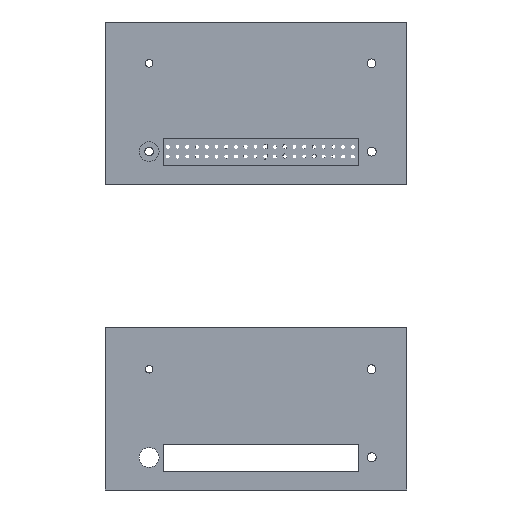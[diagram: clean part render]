
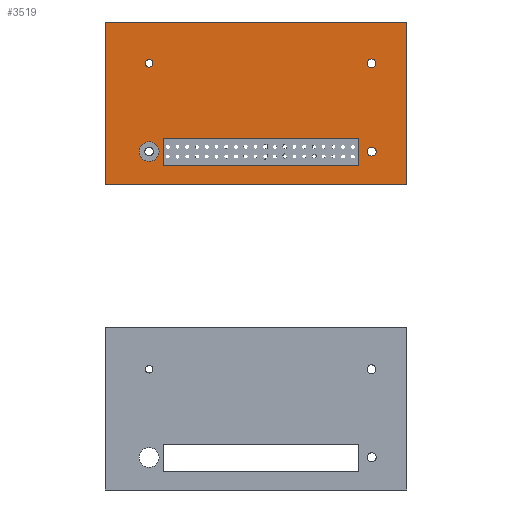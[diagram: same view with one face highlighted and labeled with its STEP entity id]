
A CAD part, front view. The second image highlights one B-rep face of the part: STEP entity #3519.
In plain terms, the highlighted planar face has unit normal (0, -1, 0).
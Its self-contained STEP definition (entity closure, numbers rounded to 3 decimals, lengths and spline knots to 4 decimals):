
#1806=LINE('',#6390,#1950);
#1809=LINE('',#6396,#1953);
#1818=LINE('',#6412,#1962);
#1821=LINE('',#6417,#1965);
#1824=LINE('',#6428,#1968);
#1825=LINE('',#6431,#1969);
#1826=LINE('',#6433,#1970);
#1827=LINE('',#6435,#1971);
#1950=VECTOR('',#5127,100.);
#1953=VECTOR('',#5132,100.);
#1962=VECTOR('',#5143,100.);
#1965=VECTOR('',#5148,100.);
#1968=VECTOR('',#5159,100.);
#1969=VECTOR('',#5160,100.);
#1970=VECTOR('',#5161,100.);
#1971=VECTOR('',#5162,100.);
#2513=PLANE('',#4517);
#2647=ORIENTED_EDGE('',*,*,#2959,.F.);
#2648=ORIENTED_EDGE('',*,*,#2962,.T.);
#2649=ORIENTED_EDGE('',*,*,#2971,.T.);
#2650=ORIENTED_EDGE('',*,*,#2974,.F.);
#2651=ORIENTED_EDGE('',*,*,#2977,.F.);
#2652=ORIENTED_EDGE('',*,*,#2978,.F.);
#2653=ORIENTED_EDGE('',*,*,#2979,.F.);
#2654=ORIENTED_EDGE('',*,*,#2980,.F.);
#2655=ORIENTED_EDGE('',*,*,#2981,.F.);
#2656=ORIENTED_EDGE('',*,*,#2982,.T.);
#2657=ORIENTED_EDGE('',*,*,#2983,.T.);
#2658=ORIENTED_EDGE('',*,*,#2984,.T.);
#2959=EDGE_CURVE('',#3128,#3125,#1806,.T.);
#2962=EDGE_CURVE('',#3128,#3130,#1809,.T.);
#2971=EDGE_CURVE('',#3130,#3136,#1818,.T.);
#2974=EDGE_CURVE('',#3125,#3136,#1821,.T.);
#2977=EDGE_CURVE('',#3139,#3139,#3223,.T.);
#2978=EDGE_CURVE('',#3140,#3140,#3224,.T.);
#2979=EDGE_CURVE('',#3141,#3141,#3225,.T.);
#2980=EDGE_CURVE('',#3142,#3143,#1824,.T.);
#2981=EDGE_CURVE('',#3144,#3142,#1825,.T.);
#2982=EDGE_CURVE('',#3144,#3145,#1826,.T.);
#2983=EDGE_CURVE('',#3145,#3143,#1827,.T.);
#2984=EDGE_CURVE('',#3146,#3146,#3226,.T.);
#3125=VERTEX_POINT('',#6384);
#3128=VERTEX_POINT('',#6389);
#3130=VERTEX_POINT('',#6395);
#3136=VERTEX_POINT('',#6411);
#3139=VERTEX_POINT('',#6423);
#3140=VERTEX_POINT('',#6425);
#3141=VERTEX_POINT('',#6427);
#3142=VERTEX_POINT('',#6429);
#3143=VERTEX_POINT('',#6430);
#3144=VERTEX_POINT('',#6432);
#3145=VERTEX_POINT('',#6434);
#3146=VERTEX_POINT('',#6437);
#3223=CIRCLE('',#4518,0.1175);
#3224=CIRCLE('',#4519,0.1142);
#3225=CIRCLE('',#4520,0.0979);
#3226=CIRCLE('',#4521,0.2583);
#3272=EDGE_LOOP('',(#2647,#2648,#2649,#2650));
#3273=EDGE_LOOP('',(#2651));
#3274=EDGE_LOOP('',(#2652));
#3275=EDGE_LOOP('',(#2653));
#3276=EDGE_LOOP('',(#2654,#2655,#2656,#2657));
#3277=EDGE_LOOP('',(#2658));
#3392=FACE_BOUND('',#3272,.T.);
#3393=FACE_BOUND('',#3273,.T.);
#3394=FACE_BOUND('',#3274,.T.);
#3395=FACE_BOUND('',#3275,.T.);
#3396=FACE_BOUND('',#3276,.T.);
#3397=FACE_BOUND('',#3277,.T.);
#3519=ADVANCED_FACE('',(#3392,#3393,#3394,#3395,#3396,#3397),#2513,.T.);
#4517=AXIS2_PLACEMENT_3D('',#6421,#5151,#5152);
#4518=AXIS2_PLACEMENT_3D('',#6422,#5153,#5154);
#4519=AXIS2_PLACEMENT_3D('',#6424,#5155,#5156);
#4520=AXIS2_PLACEMENT_3D('',#6426,#5157,#5158);
#4521=AXIS2_PLACEMENT_3D('',#6436,#5163,#5164);
#5127=DIRECTION('',(-1.,0.,0.));
#5132=DIRECTION('',(0.,0.,1.));
#5143=DIRECTION('',(-1.,0.,0.));
#5148=DIRECTION('',(0.,0.,1.));
#5151=DIRECTION('',(0.,-1.,0.));
#5152=DIRECTION('',(1.,0.,0.));
#5153=DIRECTION('',(0.,-1.,0.));
#5154=DIRECTION('',(-1.,0.,0.));
#5155=DIRECTION('',(0.,-1.,0.));
#5156=DIRECTION('',(-1.,0.,0.));
#5157=DIRECTION('',(0.,-1.,0.));
#5158=DIRECTION('',(-1.,0.,0.));
#5159=DIRECTION('',(0.,0.,-1.));
#5160=DIRECTION('',(-1.,0.,0.));
#5161=DIRECTION('',(0.,0.,-1.));
#5162=DIRECTION('',(-1.,0.,0.));
#5163=DIRECTION('',(0.,1.,0.));
#5164=DIRECTION('',(1.,0.,0.));
#6384=CARTESIAN_POINT('',(-0.7903,-0.6,-0.7952));
#6389=CARTESIAN_POINT('',(7.0649,-0.6,-0.7952));
#6390=CARTESIAN_POINT('',(3.1373,-0.6,-0.7952));
#6395=CARTESIAN_POINT('',(7.0649,-0.6,3.4325));
#6396=CARTESIAN_POINT('',(7.0649,-0.6,1.3187));
#6411=CARTESIAN_POINT('',(-0.7903,-0.6,3.4325));
#6412=CARTESIAN_POINT('',(3.1373,-0.6,3.4325));
#6417=CARTESIAN_POINT('',(-0.7903,-0.6,1.3187));
#6421=CARTESIAN_POINT('',(3.1373,-0.6,1.3187));
#6422=CARTESIAN_POINT('',(6.1512,-0.6,0.0543));
#6423=CARTESIAN_POINT('',(6.0337,-0.6,0.0543));
#6424=CARTESIAN_POINT('',(6.1482,-0.6,2.3543));
#6425=CARTESIAN_POINT('',(6.034,-0.6,2.3543));
#6426=CARTESIAN_POINT('',(0.3536,-0.6,2.3529));
#6427=CARTESIAN_POINT('',(0.2557,-0.6,2.3529));
#6428=CARTESIAN_POINT('',(0.7181,-0.6,1.3187));
#6429=CARTESIAN_POINT('',(0.7181,-0.6,0.3925));
#6430=CARTESIAN_POINT('',(0.7181,-0.6,-0.3151));
#6431=CARTESIAN_POINT('',(3.1373,-0.6,0.3925));
#6432=CARTESIAN_POINT('',(5.8041,-0.6,0.3925));
#6433=CARTESIAN_POINT('',(5.8041,-0.6,1.3187));
#6434=CARTESIAN_POINT('',(5.8041,-0.6,-0.3151));
#6435=CARTESIAN_POINT('',(3.1373,-0.6,-0.3151));
#6436=CARTESIAN_POINT('',(0.3514,-0.6,0.0529));
#6437=CARTESIAN_POINT('',(0.6097,-0.6,0.0529));
